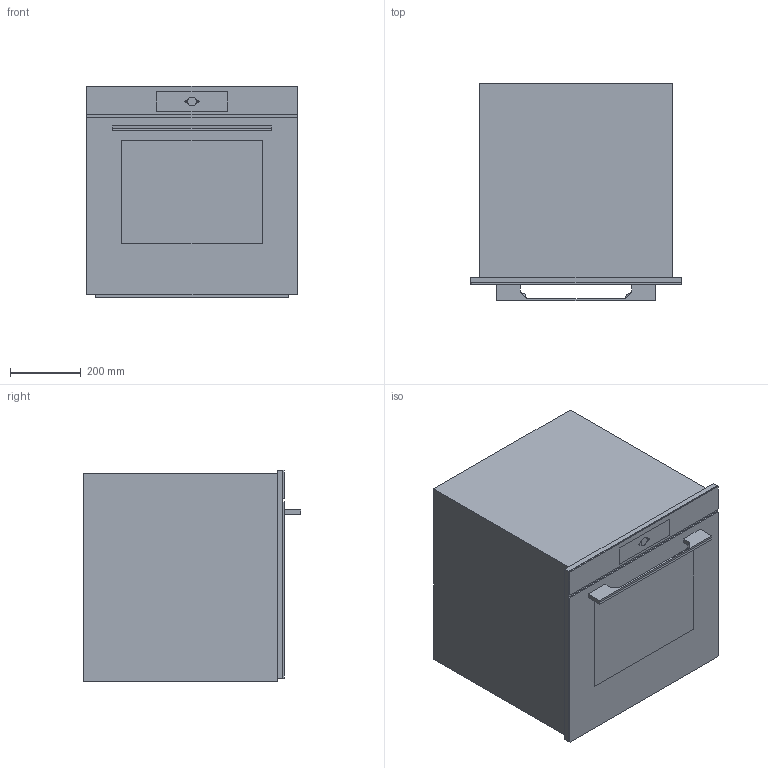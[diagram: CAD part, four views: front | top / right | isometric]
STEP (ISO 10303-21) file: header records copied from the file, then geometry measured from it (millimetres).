
FILE_DESCRIPTION(/* description */ (''),/* implementation_level */ '2;1');
FILE_NAME(/* name */ 'C2T660CHG',/* time_stamp */ '2025-12-02T18:19:05+01:00',/* author */ (''),/* organization */ (''),/* preprocessor_version */ 'ST-DEVELOPER v16.5',/* originating_system */ 'Rhino 7.38',/* authorisation */ '');
FILE_SCHEMA (('CONFIG_CONTROL_DESIGN'));
Length unit declared in the file: millimetre
Products named in the file (1): Document
Bounding box: 594 x 615.44 x 598 mm (x, y, z)
Volume: 181740157.2 mm3; surface area: 3443312.5 mm2
Topology: 8 solids, 8 shells, 78 faces, 203 edges, 128 vertices
Faces by surface type: plane 61, cylinder 10, bspline 7
Entity records: 2814 total; most frequent: CARTESIAN_POINT 1359, ORIENTED_EDGE 366, EDGE_CURVE 183, B_SPLINE_CURVE_WITH_KNOTS 157, VERTEX_POINT 122, DIRECTION 94, EDGE_LOOP 85, ADVANCED_FACE 78
